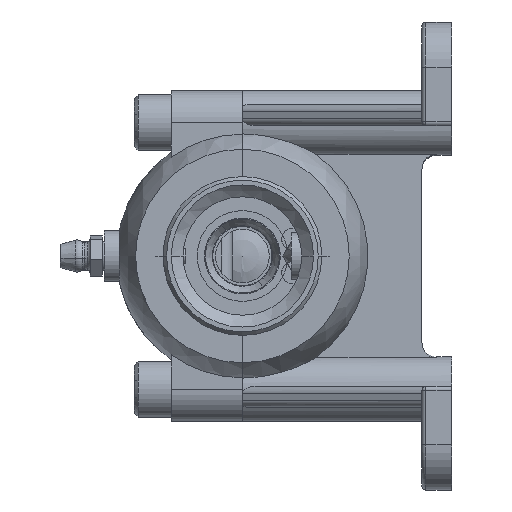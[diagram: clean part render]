
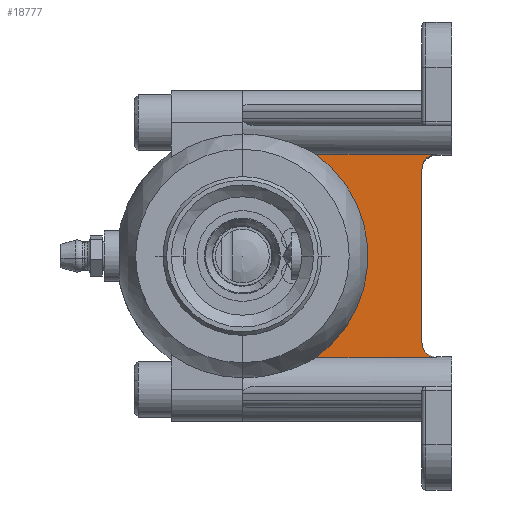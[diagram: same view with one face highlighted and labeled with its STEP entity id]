
A CAD part, left-side view. The second image highlights one B-rep face of the part: STEP entity #18777.
In plain terms, the highlighted planar face has unit normal (-1, 0, 0).
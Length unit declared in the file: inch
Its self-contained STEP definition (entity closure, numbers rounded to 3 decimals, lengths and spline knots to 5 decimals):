
#122 = ORIENTED_EDGE ( 'NONE', *, *, #13377, .F. ) ;
#212 = B_SPLINE_CURVE_WITH_KNOTS ( 'NONE', 3,
 ( #21550, #21632, #21653, #21048, #20762, #20592, #20238, #20153, #20030, #19857, #19365, #19209, #19146, #19131, #19064, #18805 ),
 .UNSPECIFIED., .F., .F.,
 ( 4, 2, 2, 2, 2, 2, 2, 4 ),
 ( 0., 0.00063, 0.00126, 0.00188, 0.00251, 0.00314, 0.00377, 0.00502 ),
 .UNSPECIFIED. ) ;
#503 = VECTOR ( 'NONE', #15346, 39.37008 ) ;
#536 = CARTESIAN_POINT ( 'NONE',  ( -0.075, 0.25, -0.73209 ) ) ;
#559 = CARTESIAN_POINT ( 'NONE',  ( -0.075, 0.25, -0.74045 ) ) ;
#582 = CARTESIAN_POINT ( 'NONE',  ( -0.075, 0.2492, -0.7487 ) ) ;
#607 = CARTESIAN_POINT ( 'NONE',  ( -0.075, 0.24603, -0.76502 ) ) ;
#627 = CARTESIAN_POINT ( 'NONE',  ( -0.075, 0.24365, -0.77305 ) ) ;
#646 = CARTESIAN_POINT ( 'NONE',  ( -0.075, 0.23442, -0.79598 ) ) ;
#676 = CARTESIAN_POINT ( 'NONE',  ( -0.075, 0.22523, -0.81024 ) ) ;
#702 = CARTESIAN_POINT ( 'NONE',  ( -0.075, 0.20808, -0.82807 ) ) ;
#707 = CARTESIAN_POINT ( 'NONE',  ( -0.075, 0.2017, -0.83353 ) ) ;
#754 = CARTESIAN_POINT ( 'NONE',  ( -0.075, 0.18811, -0.84301 ) ) ;
#760 = CARTESIAN_POINT ( 'NONE',  ( -0.075, 0.18091, -0.84704 ) ) ;
#782 = CARTESIAN_POINT ( 'NONE',  ( -0.075, 0.16572, -0.85364 ) ) ;
#786 = CARTESIAN_POINT ( 'NONE',  ( -0.075, 0.15771, -0.85619 ) ) ;
#811 = CARTESIAN_POINT ( 'NONE',  ( -0.075, 0.14157, -0.85956 ) ) ;
#836 = CARTESIAN_POINT ( 'NONE',  ( -0.075, 0.125, -0.86042 ) ) ;
#841 = CARTESIAN_POINT ( 'NONE',  ( -0.075, 0.13336, -0.86042 ) ) ;
#1265 = CARTESIAN_POINT ( 'NONE',  ( -0.075, 4.30782, -0.86042 ) ) ;
#1431 = LINE ( 'NONE', #7325, #15120 ) ;
#1489 = DIRECTION ( 'NONE',  ( 0., 1., 0. ) ) ;
#1574 = CARTESIAN_POINT ( 'NONE',  ( -0.075, 0.25, 0.73209 ) ) ;
#2331 = EDGE_CURVE ( 'NONE', #4672, #21589, #212, .T. ) ;
#2503 = ORIENTED_EDGE ( 'NONE', *, *, #18699, .F. ) ;
#3164 = CARTESIAN_POINT ( 'NONE',  ( -0.075, 1.14617, -0.86042 ) ) ;
#3622 = PLANE ( 'NONE',  #15228 ) ;
#3841 = ORIENTED_EDGE ( 'NONE', *, *, #6909, .T. ) ;
#4454 = CARTESIAN_POINT ( 'NONE',  ( -0.075, 1.14617, 0.86042 ) ) ;
#4672 = VERTEX_POINT ( 'NONE', #1574 ) ;
#5467 = ORIENTED_EDGE ( 'NONE', *, *, #15849, .F. ) ;
#5771 = FACE_OUTER_BOUND ( 'NONE', #20457, .T. ) ;
#5842 = LINE ( 'NONE', #1265, #15358 ) ;
#6433 = CARTESIAN_POINT ( 'NONE',  ( -0.075, 0.25, 1.125 ) ) ;
#6909 = EDGE_CURVE ( 'NONE', #22199, #16536, #16069, .T. ) ;
#7292 = CARTESIAN_POINT ( 'NONE',  ( -0.075, 1.32, 1.125 ) ) ;
#7325 = CARTESIAN_POINT ( 'NONE',  ( -0.075, 4.30782, 0.86042 ) ) ;
#7466 = DIRECTION ( 'NONE',  ( 0., 0., 1. ) ) ;
#7518 = DIRECTION ( 'NONE',  ( -1., 0., 0. ) ) ;
#7625 = CARTESIAN_POINT ( 'NONE',  ( -0.075, 1.765, 0. ) ) ;
#7886 = DIRECTION ( 'NONE',  ( 0., -1., 0. ) ) ;
#9044 = DIRECTION ( 'NONE',  ( 0., 0., 1. ) ) ;
#9798 = CARTESIAN_POINT ( 'NONE',  ( -0.075, 0.25, -0.73209 ) ) ;
#9924 = LINE ( 'NONE', #6433, #503 ) ;
#11067 = ORIENTED_EDGE ( 'NONE', *, *, #18066, .F. ) ;
#11918 = CARTESIAN_POINT ( 'NONE',  ( -0.075, 0.125, -0.86042 ) ) ;
#12858 = CIRCLE ( 'NONE', #17960, 1.05985 ) ;
#13141 = VERTEX_POINT ( 'NONE', #4454 ) ;
#13377 = EDGE_CURVE ( 'NONE', #22199, #21729, #5842, .T. ) ;
#15120 = VECTOR ( 'NONE', #7886, 39.37008 ) ;
#15228 = AXIS2_PLACEMENT_3D ( 'NONE', #7292, #19924, #9044 ) ;
#15346 = DIRECTION ( 'NONE',  ( 0., 0., -1. ) ) ;
#15358 = VECTOR ( 'NONE', #1489, 39.37008 ) ;
#15849 = EDGE_CURVE ( 'NONE', #13141, #21589, #1431, .T. ) ;
#16069 = B_SPLINE_CURVE_WITH_KNOTS ( 'NONE', 3,
 ( #836, #841, #811, #786, #782, #760, #754, #707, #702, #676, #646, #627, #607, #582, #559, #536 ),
 .UNSPECIFIED., .F., .F.,
 ( 4, 2, 2, 2, 2, 2, 2, 4 ),
 ( 0., 0.00063, 0.00126, 0.00188, 0.00251, 0.00377, 0.00439, 0.00502 ),
 .UNSPECIFIED. ) ;
#16536 = VERTEX_POINT ( 'NONE', #9798 ) ;
#16584 = ORIENTED_EDGE ( 'NONE', *, *, #2331, .T. ) ;
#17960 = AXIS2_PLACEMENT_3D ( 'NONE', #7625, #7518, #7466 ) ;
#18066 = EDGE_CURVE ( 'NONE', #21729, #13141, #12858, .T. ) ;
#18699 = EDGE_CURVE ( 'NONE', #4672, #16536, #9924, .T. ) ;
#18777 = ADVANCED_FACE ( 'NONE', ( #5771 ), #3622, .T. ) ;
#18781 = CARTESIAN_POINT ( 'NONE',  ( -0.075, 0.125, 0.86042 ) ) ;
#18805 = CARTESIAN_POINT ( 'NONE',  ( -0.075, 0.125, 0.86042 ) ) ;
#19064 = CARTESIAN_POINT ( 'NONE',  ( -0.075, 0.14173, 0.86042 ) ) ;
#19131 = CARTESIAN_POINT ( 'NONE',  ( -0.075, 0.1583, 0.85688 ) ) ;
#19146 = CARTESIAN_POINT ( 'NONE',  ( -0.075, 0.18097, 0.84701 ) ) ;
#19209 = CARTESIAN_POINT ( 'NONE',  ( -0.075, 0.1883, 0.8429 ) ) ;
#19365 = CARTESIAN_POINT ( 'NONE',  ( -0.075, 0.20188, 0.83339 ) ) ;
#19857 = CARTESIAN_POINT ( 'NONE',  ( -0.075, 0.20813, 0.82803 ) ) ;
#19924 = DIRECTION ( 'NONE',  ( -1., 0., 0. ) ) ;
#20030 = CARTESIAN_POINT ( 'NONE',  ( -0.075, 0.21957, 0.81611 ) ) ;
#20153 = CARTESIAN_POINT ( 'NONE',  ( -0.075, 0.22479, 0.8095 ) ) ;
#20238 = CARTESIAN_POINT ( 'NONE',  ( -0.075, 0.23373, 0.79562 ) ) ;
#20457 = EDGE_LOOP ( 'NONE', ( #122, #3841, #2503, #16584, #5467, #11067 ) ) ;
#20592 = CARTESIAN_POINT ( 'NONE',  ( -0.075, 0.23752, 0.7883 ) ) ;
#20762 = CARTESIAN_POINT ( 'NONE',  ( -0.075, 0.24371, 0.77289 ) ) ;
#21048 = CARTESIAN_POINT ( 'NONE',  ( -0.075, 0.24607, 0.76485 ) ) ;
#21550 = CARTESIAN_POINT ( 'NONE',  ( -0.075, 0.25, 0.73209 ) ) ;
#21589 = VERTEX_POINT ( 'NONE', #18781 ) ;
#21632 = CARTESIAN_POINT ( 'NONE',  ( -0.075, 0.25, 0.74045 ) ) ;
#21653 = CARTESIAN_POINT ( 'NONE',  ( -0.075, 0.2492, 0.74867 ) ) ;
#21729 = VERTEX_POINT ( 'NONE', #3164 ) ;
#22199 = VERTEX_POINT ( 'NONE', #11918 ) ;
